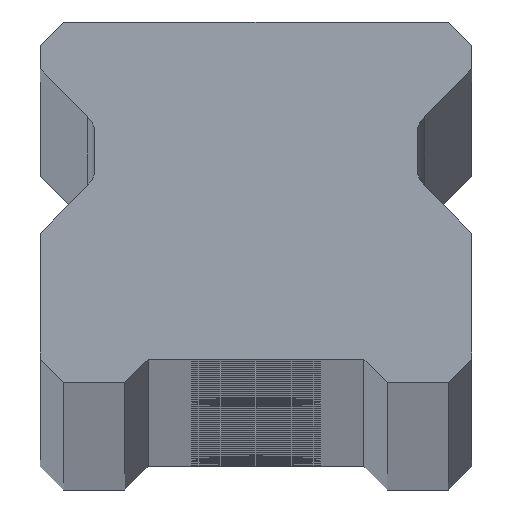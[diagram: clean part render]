
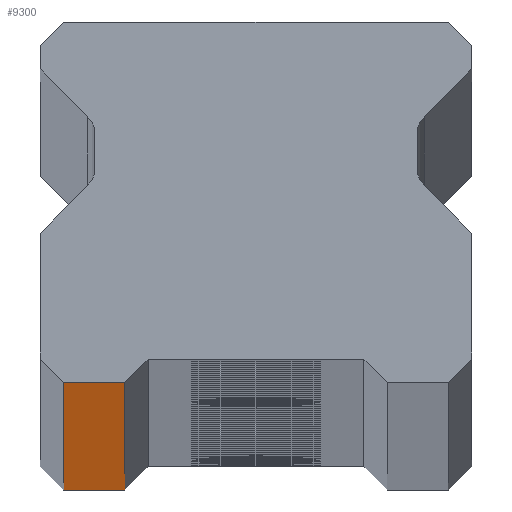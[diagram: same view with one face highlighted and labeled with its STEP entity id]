
A CAD part, top view. The second image highlights one B-rep face of the part: STEP entity #9300.
In plain terms, the highlighted planar face has unit normal (0, -1, 0).
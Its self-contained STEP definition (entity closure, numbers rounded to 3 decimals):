
#481 = FACE_OUTER_BOUND ( 'NONE', #4317, .T. ) ;
#483 = CARTESIAN_POINT ( 'NONE',  ( -10.25, 0., 1640. ) ) ;
#487 = VECTOR ( 'NONE', #5282, 1000. ) ;
#539 = EDGE_CURVE ( 'NONE', #8771, #1886, #6798, .T. ) ;
#962 = CARTESIAN_POINT ( 'NONE',  ( 11.5, 0., -1640. ) ) ;
#1133 = VERTEX_POINT ( 'NONE', #3371 ) ;
#1886 = VERTEX_POINT ( 'NONE', #3466 ) ;
#2287 = ORIENTED_EDGE ( 'NONE', *, *, #6763, .T. ) ;
#2574 = VERTEX_POINT ( 'NONE', #4437 ) ;
#2855 = PLANE ( 'NONE',  #9188 ) ;
#3162 = ORIENTED_EDGE ( 'NONE', *, *, #539, .T. ) ;
#3371 = CARTESIAN_POINT ( 'NONE',  ( -10.25, 0., -1640. ) ) ;
#3466 = CARTESIAN_POINT ( 'NONE',  ( -7., 0., 1640. ) ) ;
#3958 = CARTESIAN_POINT ( 'NONE',  ( 11.5, 0., 1640. ) ) ;
#3973 = LINE ( 'NONE', #483, #8590 ) ;
#4110 = LINE ( 'NONE', #3958, #7587 ) ;
#4299 = CARTESIAN_POINT ( 'NONE',  ( 11.5, 0., 1640. ) ) ;
#4317 = EDGE_LOOP ( 'NONE', ( #2287, #3162, #6604, #5430 ) ) ;
#4437 = CARTESIAN_POINT ( 'NONE',  ( -10.25, 0., 1640. ) ) ;
#4656 = DIRECTION ( 'NONE',  ( 1., 0., 0. ) ) ;
#4837 = DIRECTION ( 'NONE',  ( 0., 0., -1. ) ) ;
#4960 = CARTESIAN_POINT ( 'NONE',  ( -7., 0., -1640. ) ) ;
#5242 = VECTOR ( 'NONE', #9177, 1000. ) ;
#5282 = DIRECTION ( 'NONE',  ( 1., 0., 0. ) ) ;
#5430 = ORIENTED_EDGE ( 'NONE', *, *, #9233, .T. ) ;
#6460 = EDGE_CURVE ( 'NONE', #2574, #1886, #4110, .T. ) ;
#6604 = ORIENTED_EDGE ( 'NONE', *, *, #6460, .F. ) ;
#6763 = EDGE_CURVE ( 'NONE', #1133, #8771, #8596, .T. ) ;
#6798 = LINE ( 'NONE', #9212, #5242 ) ;
#7587 = VECTOR ( 'NONE', #4656, 1000. ) ;
#7832 = DIRECTION ( 'NONE',  ( 0., 1., 0. ) ) ;
#8590 = VECTOR ( 'NONE', #4837, 1000. ) ;
#8596 = LINE ( 'NONE', #962, #487 ) ;
#8771 = VERTEX_POINT ( 'NONE', #4960 ) ;
#9177 = DIRECTION ( 'NONE',  ( 0., 0., 1. ) ) ;
#9188 = AXIS2_PLACEMENT_3D ( 'NONE', #4299, #7832, #9355 ) ;
#9212 = CARTESIAN_POINT ( 'NONE',  ( -7., 0., -1640. ) ) ;
#9233 = EDGE_CURVE ( 'NONE', #2574, #1133, #3973, .T. ) ;
#9300 = ADVANCED_FACE ( 'NONE', ( #481 ), #2855, .F. ) ;
#9355 = DIRECTION ( 'NONE',  ( -1., 0., 0. ) ) ;
